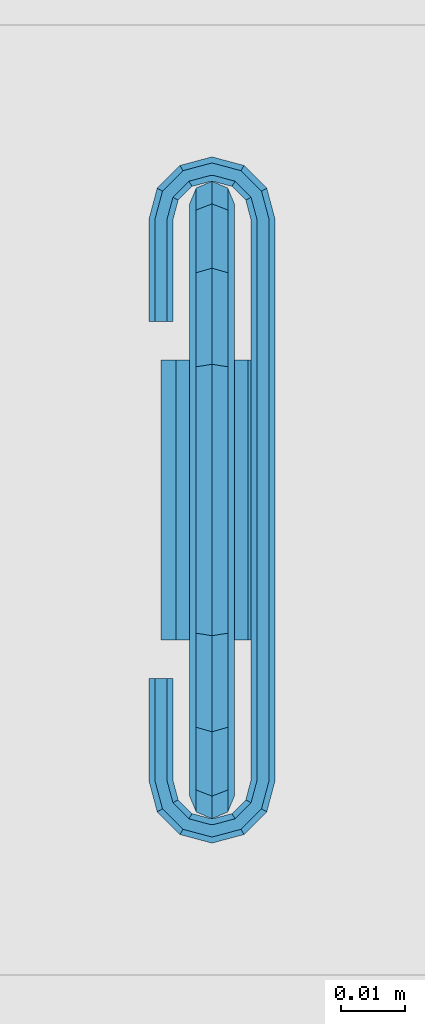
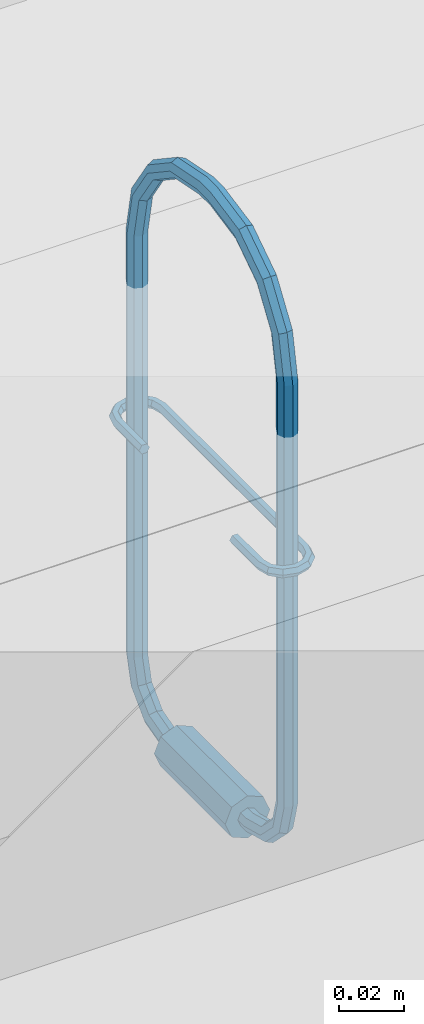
# One storey, part 185 of 230: 1 beam.
"""IFC4X3_ADD2 building model written with IfcOpenShell, lengths in millimetres."""

from ifc_helpers import new_model, si_unit, direction, origin_with_axes, place, context, subcontext, project, spatial, triangles, element, save


model = new_model("IFC4X3_ADD2")

# Units and contexts
model_context = context("Model", 3, precision=1e-05, world=origin_with_axes(), true_north=direction((0.0, 1.0)))
body_context = subcontext(model_context, "Body", "Model", "MODEL_VIEW")
ifc_project = project(units=[si_unit("LENGTHUNIT", "METRE", prefix="MILLI"), si_unit("AREAUNIT", "SQUARE_METRE"), si_unit("VOLUMEUNIT", "CUBIC_METRE"), si_unit("PLANEANGLEUNIT", "RADIAN"), si_unit("TIMEUNIT", "SECOND"), si_unit("MASSUNIT", "GRAM")], contexts=[model_context])

# Site, building, storey
site_placement = place(None, origin_with_axes())
site = spatial("IfcSite", under=ifc_project, at=site_placement, Name="Site", CompositionType="ELEMENT")
building_placement = place(site_placement, origin_with_axes())
building = spatial("IfcBuilding", under=site, at=building_placement, Name="IFC Building Story")
storey_placement = place(building_placement, origin_with_axes())
storey = spatial("IfcBuildingStorey", under=building, at=storey_placement, Name="ETAGE 00 (0)", Elevation=0.0)

# Beam
beam_placement = place(storey_placement, origin_with_axes())
element("IfcBeam", 1, at=beam_placement, inside=storey, Name="LU2", ObjectType="D7", context=body_context, shape_type="Tessellation", body=[
    triangles([(47798.66381835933, -1008.499997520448, 4036.025157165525), (47798.66381835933, -1012.00000190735, 4036.025157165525), (47796.18955078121, -1008.499997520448, 4034.999929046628), (47796.18955078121, -1012.00000190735, 4034.999929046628), (47799.68701171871, -1008.499997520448, 4038.500006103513), (47799.68701171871, -1012.00000190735, 4038.500006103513), (47798.66381835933, -1012.00000190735, 4040.974855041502), (47798.66381835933, -1008.499997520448, 4040.974855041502), (47796.18955078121, -1012.00000190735, 4042.000083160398), (47796.18955078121, -1008.499997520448, 4042.000083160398), (47793.71528320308, -1012.00000190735, 4040.974855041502), (47793.71528320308, -1008.499997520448, 4040.974855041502), (47792.6874389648, -1012.00000190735, 4038.500006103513), (47792.6874389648, -1008.499997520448, 4038.500006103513), (47793.71528320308, -1008.499997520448, 4036.025157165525), (47793.71528320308, -1012.00000190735, 4036.025157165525), (47796.18955078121, -996.2499458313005, 4038.282286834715), (47793.71528320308, -996.7625598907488, 4039.170023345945), (47796.18955078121, -987.282324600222, 4047.250053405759), (47793.71528320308, -988.1701337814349, 4047.762522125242), (47798.66381835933, -988.1701337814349, 4047.762522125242), (47798.66381835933, -996.7625598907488, 4039.170023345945), (47799.68701171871, -990.3134622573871, 4048.999946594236), (47799.68701171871, -997.9999843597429, 4041.313497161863), (47798.66381835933, -999.237408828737, 4043.456680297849), (47798.66381835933, -992.4567180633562, 4050.237371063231), (47796.18955078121, -999.7499502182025, 4044.34441680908), (47796.18955078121, -993.3445272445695, 4050.750130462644), (47793.71528320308, -992.4567180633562, 4050.237371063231), (47793.71528320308, -999.237408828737, 4043.456680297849), (47792.6874389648, -990.3134622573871, 4048.999946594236), (47792.6874389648, -997.9999843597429, 4041.313497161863), (47793.71528320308, -985.025122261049, 4059.499887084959), (47792.6874389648, -987.499971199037, 4059.499887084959), (47796.18955078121, -983.9999668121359, 4059.499887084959), (47798.66381835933, -985.025122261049, 4059.499887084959), (47799.68701171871, -987.499971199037, 4059.499887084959), (47798.66381835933, -989.9748201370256, 4059.499887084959), (47796.18955078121, -990.9999755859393, 4059.499887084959), (47793.71528320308, -989.9748201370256, 4059.499887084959), (47793.71528320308, -989.9748201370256, 4218.50006561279), (47792.6874389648, -987.499971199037, 4218.50006561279), (47793.71528320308, -993.0596609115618, 4234.008421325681), (47792.6874389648, -990.7731725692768, 4234.955456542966), (47793.71528320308, -1001.844371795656, 4247.155583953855), (47792.6874389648, -1000.094405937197, 4248.905477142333), (47793.71528320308, -998.3443674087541, 4250.65566101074), (47793.71528320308, -988.4866842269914, 4235.902491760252), (47796.18955078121, -997.6194843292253, 4251.38032608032), (47796.18955078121, -987.5395763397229, 4236.294909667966), (47798.66381835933, -998.3443674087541, 4250.65566101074), (47798.66381835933, -988.4866842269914, 4235.902491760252), (47799.68701171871, -1000.094405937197, 4248.905477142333), (47799.68701171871, -990.7731725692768, 4234.955456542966), (47798.66381835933, -993.0596609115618, 4234.008421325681), (47798.66381835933, -1001.844371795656, 4247.155583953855), (47796.18955078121, -994.0067687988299, 4233.616003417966), (47796.18955078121, -1002.569254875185, 4246.430628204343), (47796.18955078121, -1015.383952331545, 4254.993186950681), (47793.71528320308, -1014.991679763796, 4255.940222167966), (47792.6874389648, -1014.044571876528, 4258.226710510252), (47793.71528320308, -1013.097536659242, 4260.513198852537), (47796.18955078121, -1012.705191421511, 4261.460524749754), (47798.66381835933, -1013.097536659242, 4260.513198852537), (47799.68701171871, -1014.044571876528, 4258.226710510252), (47798.66381835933, -1014.991679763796, 4255.940222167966), (47798.66381835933, -1030.499962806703, 4259.025208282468), (47796.18955078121, -1030.499962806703, 4257.999980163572), (47793.71528320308, -1030.499962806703, 4259.025208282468), (47792.6874389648, -1030.499962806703, 4261.500057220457), (47793.71528320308, -1030.499962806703, 4263.974906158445), (47796.18955078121, -1030.499962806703, 4265.000134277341), (47798.66381835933, -1030.499962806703, 4263.974906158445), (47799.68701171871, -1030.499962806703, 4261.500057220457), (47799.68701171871, -1037.499971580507, 4261.500057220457), (47798.66381835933, -1037.499971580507, 4259.025208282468), (47799.68701171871, -1053.955362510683, 4258.226710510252), (47798.66381835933, -1053.008254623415, 4255.940222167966), (47799.68701171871, -1067.905601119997, 4248.905477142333), (47798.66381835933, -1066.155562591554, 4247.155583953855), (47796.18955078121, -1052.615982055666, 4254.993186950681), (47796.18955078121, -1065.430679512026, 4246.430628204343), (47793.71528320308, -1066.155562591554, 4247.155583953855), (47793.71528320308, -1053.008254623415, 4255.940222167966), (47792.6874389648, -1067.905601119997, 4248.905477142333), (47792.6874389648, -1053.955362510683, 4258.226710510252), (47793.71528320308, -1069.655566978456, 4250.65566101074), (47793.71528320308, -1054.902470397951, 4260.513198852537), (47796.18955078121, -1070.380450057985, 4251.38032608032), (47796.18955078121, -1055.2947429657, 4261.460524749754), (47798.66381835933, -1069.655566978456, 4250.65566101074), (47798.66381835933, -1054.902470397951, 4260.513198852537), (47799.68701171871, -1077.226834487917, 4234.955456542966), (47798.66381835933, -1079.513322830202, 4235.902491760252), (47798.66381835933, -1074.940346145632, 4234.008421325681), (47796.18955078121, -1073.993238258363, 4233.616003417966), (47793.71528320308, -1074.940346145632, 4234.008421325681), (47792.6874389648, -1077.226834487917, 4234.955456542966), (47793.71528320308, -1079.513322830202, 4235.902491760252), (47796.18955078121, -1080.460358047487, 4236.294909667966), (47798.66381835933, -1082.974884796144, 4218.50006561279), (47796.18955078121, -1083.999967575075, 4218.50006561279), (47799.68701171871, -1080.499963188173, 4218.50006561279), (47798.66381835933, -1078.025114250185, 4218.50006561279), (47796.18955078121, -1076.999958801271, 4218.50006561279), (47793.71528320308, -1078.025114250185, 4218.50006561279), (47792.6874389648, -1080.499963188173, 4218.50006561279), (47793.71528320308, -1082.974884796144, 4218.50006561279), (47796.18955078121, -1083.999967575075, 4059.499887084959), (47793.71528320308, -1082.974884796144, 4059.499887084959), (47796.18955078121, -1080.717609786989, 4047.250053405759), (47793.71528320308, -1079.829800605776, 4047.762522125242), (47796.18955078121, -1071.74998855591, 4038.282286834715), (47793.71528320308, -1071.237447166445, 4039.170023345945), (47798.66381835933, -1071.237447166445, 4039.170023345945), (47798.66381835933, -1079.829800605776, 4047.762522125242), (47799.68701171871, -1069.999950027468, 4041.313497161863), (47799.68701171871, -1077.686544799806, 4048.999946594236), (47798.66381835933, -1075.543216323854, 4050.237371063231), (47798.66381835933, -1068.762525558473, 4043.456680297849), (47796.18955078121, -1074.655407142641, 4050.750130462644), (47796.18955078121, -1068.249984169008, 4044.34441680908), (47793.71528320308, -1068.762525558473, 4043.456680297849), (47793.71528320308, -1075.543216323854, 4050.237371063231), (47792.6874389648, -1069.999950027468, 4041.313497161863), (47792.6874389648, -1077.686544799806, 4048.999946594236), (47793.71528320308, -1059.500009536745, 4036.025157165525), (47792.6874389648, -1059.500009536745, 4038.500006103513), (47796.18955078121, -1059.500009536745, 4034.999929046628), (47798.66381835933, -1059.500009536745, 4036.025157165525), (47799.68701171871, -1059.500009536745, 4038.500006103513), (47798.66381835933, -1059.500009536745, 4040.974855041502), (47796.18955078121, -1059.500009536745, 4042.000083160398), (47793.71528320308, -1059.500009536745, 4040.974855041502), (47793.71528320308, -1056.000005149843, 4040.974855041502), (47792.6874389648, -1056.000005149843, 4038.500006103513), (47796.18955078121, -1056.000005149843, 4042.000083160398), (47798.66381835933, -1056.000005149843, 4040.974855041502), (47799.68701171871, -1056.000005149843, 4038.500006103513), (47798.66381835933, -1056.000005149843, 4036.025157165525), (47796.18955078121, -1056.000005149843, 4034.999929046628), (47793.71528320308, -1056.000005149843, 4036.025157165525), (47804.18906249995, -1056.000005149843, 4038.500006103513), (47796.18955078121, -1056.000005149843, 4046.500099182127), (47790.53408203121, -1056.000005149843, 4044.156928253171), (47788.19003906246, -1056.000005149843, 4038.500006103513), (47801.84501953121, -1056.000005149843, 4044.156928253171), (47790.53408203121, -1056.000005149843, 4032.843083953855), (47796.18955078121, -1056.000005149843, 4030.4999130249), (47801.84501953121, -1056.000005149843, 4032.843083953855), (47801.84501953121, -1012.00000190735, 4032.843083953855), (47796.18955078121, -1012.00000190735, 4030.4999130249), (47804.18906249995, -1012.00000190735, 4038.500006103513), (47801.84501953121, -1012.00000190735, 4044.156928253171), (47796.18955078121, -1012.00000190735, 4046.500099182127), (47790.53408203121, -1012.00000190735, 4044.156928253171), (47788.19003906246, -1012.00000190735, 4038.500006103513), (47790.53408203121, -1012.00000190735, 4032.843083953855), (47792.6874389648, -1080.499963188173, 4059.499887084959), (47793.71528320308, -1078.025114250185, 4059.499887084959), (47796.18955078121, -1076.999958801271, 4059.499887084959), (47798.66381835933, -1078.025114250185, 4059.499887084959), (47799.68701171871, -1080.499963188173, 4059.499887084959), (47798.66381835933, -1082.974884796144, 4059.499887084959), (47798.66381835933, -1037.499971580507, 4263.974906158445), (47796.18955078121, -1037.499971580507, 4265.000134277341), (47793.71528320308, -1037.499971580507, 4263.974906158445), (47792.6874389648, -1037.499971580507, 4261.500057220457), (47793.71528320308, -1037.499971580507, 4259.025208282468), (47796.18955078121, -1037.499971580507, 4257.999980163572), (47796.18955078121, -990.9999755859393, 4218.50006561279), (47798.66381835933, -989.9748201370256, 4218.50006561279), (47799.68701171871, -987.499971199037, 4218.50006561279), (47798.66381835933, -985.025122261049, 4218.50006561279), (47796.18955078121, -983.9999668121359, 4218.50006561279), (47793.71528320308, -985.025122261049, 4218.50006561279), (47790.08759765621, -989.9400112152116, 4149.999886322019), (47790.08759765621, -1006.000004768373, 4149.999886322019), (47789.13881835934, -989.9400112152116, 4148.354637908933), (47789.13881835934, -1006.000004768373, 4148.354637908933), (47790.88289794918, -986.969989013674, 4149.999886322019), (47790.06434326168, -986.4950180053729, 4148.354637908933), (47792.58511962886, -983.973078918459, 4148.354637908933), (47793.0595092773, -984.7957757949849, 4149.999886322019), (47792.58511962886, -983.973078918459, 4151.645425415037), (47790.06434326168, -986.4950180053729, 4151.645425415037), (47796.02677001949, -983.049952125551, 4151.645425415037), (47796.02677001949, -981.1499954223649, 4151.645425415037), (47791.63168945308, -982.3276124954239, 4151.645425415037), (47787.24125976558, -1078.059995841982, 4151.645425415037), (47790.06434326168, -1081.504989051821, 4151.645425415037), (47789.13881835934, -1078.059995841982, 4151.645425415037), (47787.24125976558, -1062.00000228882, 4151.645425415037), (47788.41793212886, -1082.455003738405, 4151.645425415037), (47789.13881835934, -1062.00000228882, 4151.645425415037), (47791.63168945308, -1085.672321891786, 4151.645425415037), (47796.02677001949, -1084.949982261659, 4151.645425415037), (47792.58511962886, -1084.026928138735, 4151.645425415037), (47796.02677001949, -1086.850011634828, 4151.645425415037), (47787.24125976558, -989.9400112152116, 4151.645425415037), (47788.41793212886, -985.545003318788, 4151.645425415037), (47787.24125976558, -1006.000004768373, 4151.645425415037), (47789.13881835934, -989.9400112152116, 4151.645425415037), (47789.13881835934, -1006.000004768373, 4151.645425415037), (47799.79398193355, -1084.026928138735, 4151.645425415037), (47800.74276123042, -1085.672321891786, 4151.645425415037), (47803.96116943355, -1082.455003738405, 4151.645425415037), (47796.34768066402, -1086.850011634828, 4151.645425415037), (47796.34768066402, -1084.949982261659, 4151.645425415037), (47802.31475830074, -1081.504989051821, 4151.645425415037), (47805.13784179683, -1078.059995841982, 4151.645425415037), (47803.24028320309, -1078.059995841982, 4151.645425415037), (47803.24028320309, -989.9400112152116, 4151.645425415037), (47800.74276123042, -982.3276124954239, 4151.645425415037), (47799.79398193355, -983.973078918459, 4151.645425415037), (47803.96116943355, -985.545003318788, 4151.645425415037), (47796.34768066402, -981.1499954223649, 4151.645425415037), (47796.34768066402, -983.049952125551, 4151.645425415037), (47805.13784179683, -989.9400112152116, 4151.645425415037), (47802.31475830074, -986.4950180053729, 4151.645425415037), (47787.24125976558, -1062.00000228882, 4148.354637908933), (47789.13881835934, -1062.00000228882, 4148.354637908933), (47790.08759765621, -1062.00000228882, 4149.999886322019), (47786.2878295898, -1062.00000228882, 4149.999886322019), (47790.08759765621, -1078.059995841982, 4149.999886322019), (47789.13881835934, -1078.059995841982, 4148.354637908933), (47791.63168945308, -1085.672321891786, 4148.354637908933), (47796.02677001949, -1084.949982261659, 4148.354637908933), (47796.02677001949, -1086.850011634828, 4148.354637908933), (47787.24125976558, -989.9400112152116, 4148.354637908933), (47787.24125976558, -1006.000004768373, 4148.354637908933), (47788.41793212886, -985.545003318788, 4148.354637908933), (47791.63168945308, -982.3276124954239, 4148.354637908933), (47796.02677001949, -983.049952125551, 4148.354637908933), (47796.02677001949, -981.1499954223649, 4148.354637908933), (47787.24125976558, -1078.059995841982, 4148.354637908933), (47790.06434326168, -1081.504989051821, 4148.354637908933), (47788.41793212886, -1082.455003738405, 4148.354637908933), (47792.58511962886, -1084.026928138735, 4148.354637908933), (47799.79398193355, -983.973078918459, 4148.354637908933), (47800.74276123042, -982.3276124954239, 4148.354637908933), (47803.96116943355, -985.545003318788, 4148.354637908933), (47796.34768066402, -981.1499954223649, 4148.354637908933), (47796.34768066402, -983.049952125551, 4148.354637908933), (47802.31475830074, -986.4950180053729, 4148.354637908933), (47805.13784179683, -989.9400112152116, 4148.354637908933), (47803.24028320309, -989.9400112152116, 4148.354637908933), (47803.24028320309, -1078.059995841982, 4148.354637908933), (47800.74276123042, -1085.672321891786, 4148.354637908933), (47799.79398193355, -1084.026928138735, 4148.354637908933), (47803.96116943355, -1082.455003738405, 4148.354637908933), (47796.34768066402, -1086.850011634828, 4148.354637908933), (47796.34768066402, -1084.949982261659, 4148.354637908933), (47805.13784179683, -1078.059995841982, 4148.354637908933), (47802.31475830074, -1081.504989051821, 4148.354637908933), (47786.2878295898, -1078.059995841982, 4149.999886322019), (47787.59472656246, -1082.929974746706, 4149.999886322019), (47791.15729980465, -1086.495091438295, 4149.999886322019), (47796.02677001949, -1087.79995365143, 4149.999886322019), (47796.34768066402, -1087.79995365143, 4149.999886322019), (47801.21715087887, -1086.495091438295, 4149.999886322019), (47804.78437499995, -1082.929974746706, 4149.999886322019), (47806.09127197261, -1078.059995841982, 4149.999886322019), (47806.09127197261, -989.9400112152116, 4149.999886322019), (47804.78437499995, -985.0699596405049, 4149.999886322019), (47801.21715087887, -981.5049156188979, 4149.999886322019), (47796.34768066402, -980.199980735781, 4149.999886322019), (47796.02677001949, -980.199980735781, 4149.999886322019), (47791.15729980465, -981.5049156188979, 4149.999886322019), (47787.59472656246, -985.0699596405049, 4149.999886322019), (47786.2878295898, -989.9400112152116, 4149.999886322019), (47786.2878295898, -1006.000004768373, 4149.999886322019), (47796.02677001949, -983.9999668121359, 4149.999886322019), (47796.34768066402, -983.9999668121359, 4149.999886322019), (47799.31959228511, -984.7957757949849, 4149.999886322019), (47801.49155273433, -986.969989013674, 4149.999886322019), (47802.2868530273, -989.9400112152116, 4149.999886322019), (47802.2868530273, -1078.059995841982, 4149.999886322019), (47801.49155273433, -1081.03001804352, 4149.999886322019), (47799.31959228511, -1083.204158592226, 4149.999886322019), (47796.34768066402, -1083.999967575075, 4149.999886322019), (47796.02677001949, -1083.999967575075, 4149.999886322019), (47793.0595092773, -1083.204158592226, 4149.999886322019), (47790.88289794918, -1081.03001804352, 4149.999886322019)], [[1, 2, 3], [4, 3, 2], [5, 6, 1], [2, 1, 6], [6, 5, 7], [8, 7, 5], [7, 8, 9], [10, 9, 8], [9, 10, 11], [12, 11, 10], [11, 12, 13], [14, 13, 12], [15, 16, 14], [13, 14, 16], [3, 4, 15], [16, 15, 4], [17, 3, 18], [15, 18, 3], [19, 17, 20], [18, 20, 17], [21, 22, 17], [17, 19, 21], [23, 24, 22], [22, 21, 23], [24, 23, 25], [26, 25, 23], [25, 26, 27], [28, 27, 26], [27, 28, 29], [29, 30, 27], [30, 29, 31], [31, 32, 30], [20, 18, 31], [32, 31, 18], [33, 20, 34], [31, 34, 20], [35, 19, 33], [20, 33, 19], [36, 21, 19], [19, 35, 36], [37, 23, 21], [21, 36, 37], [23, 37, 26], [38, 26, 37], [26, 38, 28], [39, 28, 38], [28, 39, 40], [40, 29, 28], [29, 40, 34], [34, 31, 29], [40, 41, 42], [42, 34, 40], [41, 43, 44], [44, 42, 41], [43, 45, 46], [46, 44, 43], [47, 48, 46], [44, 46, 48], [49, 50, 47], [48, 47, 50], [51, 52, 50], [50, 49, 51], [53, 54, 52], [52, 51, 53], [54, 53, 55], [56, 55, 53], [55, 56, 57], [58, 57, 56], [57, 58, 45], [45, 43, 57], [58, 59, 60], [60, 45, 58], [45, 60, 61], [61, 46, 45], [62, 47, 61], [46, 61, 47], [63, 49, 62], [47, 62, 49], [64, 51, 49], [49, 63, 64], [65, 53, 51], [51, 64, 65], [53, 65, 56], [66, 56, 65], [56, 66, 58], [59, 58, 66], [66, 67, 59], [68, 59, 67], [59, 68, 69], [69, 60, 59], [60, 69, 70], [70, 61, 60], [71, 62, 70], [61, 70, 62], [72, 63, 71], [62, 71, 63], [73, 64, 63], [63, 72, 73], [74, 65, 64], [64, 73, 74], [65, 74, 66], [67, 66, 74], [74, 75, 67], [76, 67, 75], [75, 77, 76], [78, 76, 77], [77, 79, 78], [80, 78, 79], [78, 80, 81], [82, 81, 80], [81, 82, 83], [83, 84, 81], [84, 83, 85], [85, 86, 84], [87, 88, 85], [86, 85, 88], [89, 90, 87], [88, 87, 90], [91, 92, 90], [90, 89, 91], [79, 77, 92], [92, 91, 79], [93, 79, 91], [91, 94, 93], [79, 93, 80], [95, 80, 93], [80, 95, 82], [96, 82, 95], [82, 96, 97], [97, 83, 82], [83, 97, 98], [98, 85, 83], [99, 87, 98], [85, 98, 87], [100, 89, 99], [87, 99, 89], [94, 91, 89], [89, 100, 94], [101, 94, 100], [100, 102, 101], [103, 93, 94], [94, 101, 103], [93, 103, 95], [104, 95, 103], [95, 104, 96], [105, 96, 104], [96, 105, 106], [106, 97, 96], [97, 106, 107], [107, 98, 97], [108, 99, 107], [98, 107, 99], [102, 100, 108], [99, 108, 100], [109, 102, 110], [108, 110, 102], [111, 109, 112], [110, 112, 109], [113, 111, 114], [112, 114, 111], [115, 116, 111], [111, 113, 115], [117, 118, 116], [116, 115, 117], [118, 117, 119], [120, 119, 117], [119, 120, 121], [122, 121, 120], [121, 122, 123], [123, 124, 121], [124, 123, 125], [125, 126, 124], [114, 112, 125], [126, 125, 112], [127, 114, 128], [125, 128, 114], [129, 113, 127], [114, 127, 113], [130, 115, 113], [113, 129, 130], [131, 117, 115], [115, 130, 131], [117, 131, 120], [132, 120, 131], [120, 132, 122], [133, 122, 132], [122, 133, 134], [134, 123, 122], [123, 134, 128], [128, 125, 123], [134, 135, 136], [136, 128, 134], [133, 137, 134], [135, 134, 137], [132, 138, 137], [137, 133, 132], [131, 139, 132], [138, 132, 139], [139, 131, 130], [130, 140, 139], [140, 130, 141], [129, 141, 130], [141, 129, 127], [127, 142, 141], [142, 127, 136], [128, 136, 127], [138, 139, 143], [135, 137, 144], [144, 145, 135], [146, 136, 135], [146, 135, 145], [147, 137, 138], [137, 147, 144], [138, 143, 147], [148, 136, 146], [142, 149, 141], [142, 136, 148], [148, 149, 142], [150, 143, 139], [139, 140, 150], [141, 150, 140], [150, 141, 149], [151, 150, 152], [149, 152, 150], [153, 143, 151], [150, 151, 143], [143, 153, 147], [154, 147, 153], [147, 154, 144], [155, 144, 154], [144, 155, 145], [156, 145, 155], [145, 156, 146], [157, 146, 156], [158, 148, 157], [146, 157, 148], [152, 149, 158], [148, 158, 149], [11, 13, 157], [7, 9, 155], [155, 154, 7], [153, 6, 7], [153, 7, 154], [156, 9, 11], [9, 156, 155], [11, 157, 156], [151, 6, 153], [2, 152, 4], [2, 6, 151], [151, 152, 2], [158, 157, 13], [13, 16, 158], [4, 158, 16], [158, 4, 152], [112, 110, 126], [159, 126, 110], [160, 124, 126], [126, 159, 160], [161, 121, 124], [124, 160, 161], [162, 119, 161], [121, 161, 119], [163, 118, 162], [119, 162, 118], [118, 163, 164], [164, 116, 118], [116, 164, 109], [109, 111, 116], [164, 101, 102], [102, 109, 164], [163, 103, 164], [101, 164, 103], [103, 163, 104], [162, 104, 163], [104, 162, 105], [161, 105, 162], [105, 161, 160], [160, 106, 105], [106, 160, 159], [159, 107, 106], [110, 108, 107], [107, 159, 110], [77, 75, 165], [165, 92, 77], [92, 165, 166], [166, 90, 92], [90, 166, 88], [167, 88, 166], [88, 167, 86], [168, 86, 167], [169, 84, 86], [86, 168, 169], [170, 81, 84], [84, 169, 170], [76, 78, 170], [81, 170, 78], [67, 76, 68], [170, 68, 76], [68, 170, 169], [169, 69, 68], [69, 169, 168], [168, 70, 69], [167, 71, 70], [70, 168, 167], [166, 72, 71], [71, 167, 166], [165, 73, 166], [72, 166, 73], [75, 74, 165], [73, 165, 74], [171, 57, 43], [43, 41, 171], [172, 55, 171], [57, 171, 55], [173, 54, 172], [55, 172, 54], [54, 173, 174], [174, 52, 54], [52, 174, 175], [175, 50, 52], [50, 175, 48], [176, 48, 175], [48, 176, 44], [42, 44, 176], [176, 33, 34], [34, 42, 176], [175, 35, 176], [33, 176, 35], [174, 36, 35], [35, 175, 174], [173, 37, 174], [36, 174, 37], [37, 173, 38], [172, 38, 173], [38, 172, 39], [171, 39, 172], [39, 171, 41], [41, 40, 39], [18, 15, 32], [14, 32, 15], [12, 30, 32], [32, 14, 12], [10, 27, 30], [30, 12, 10], [8, 25, 10], [27, 10, 25], [5, 24, 8], [25, 8, 24], [24, 5, 1], [1, 22, 24], [22, 1, 3], [3, 17, 22], [177, 178, 179], [180, 179, 178], [181, 177, 179], [179, 182, 181], [183, 184, 181], [181, 182, 183], [184, 185, 181], [186, 181, 185], [187, 188, 189], [190, 191, 192], [190, 192, 193], [190, 194, 191], [195, 193, 192], [196, 197, 198], [198, 191, 194], [199, 197, 196], [196, 198, 194], [200, 186, 201], [202, 203, 200], [204, 203, 202], [200, 203, 186], [185, 189, 201], [201, 186, 185], [189, 185, 187], [205, 206, 207], [197, 199, 208], [208, 209, 197], [209, 206, 205], [206, 209, 208], [210, 207, 211], [207, 210, 205], [212, 211, 213], [211, 212, 210], [214, 215, 216], [217, 188, 187], [187, 218, 217], [218, 215, 214], [214, 217, 218], [213, 219, 220], [219, 213, 211], [220, 216, 215], [216, 220, 219], [195, 221, 193], [222, 195, 223], [193, 221, 224], [195, 222, 221], [223, 225, 226], [226, 222, 223], [227, 228, 229], [230, 182, 179], [230, 179, 231], [230, 232, 182], [180, 231, 179], [233, 234, 183], [183, 182, 232], [235, 234, 233], [233, 183, 232], [236, 237, 238], [221, 226, 236], [222, 226, 221], [236, 226, 237], [239, 227, 238], [238, 237, 239], [227, 239, 228], [240, 241, 242], [243, 234, 235], [243, 244, 234], [244, 243, 241], [240, 244, 241], [245, 242, 246], [242, 245, 240], [247, 246, 248], [246, 247, 245], [249, 250, 251], [252, 229, 228], [228, 253, 252], [253, 250, 249], [249, 252, 253], [248, 254, 255], [254, 248, 246], [255, 251, 250], [251, 255, 254], [221, 236, 256], [256, 224, 221], [190, 193, 256], [224, 256, 193], [257, 194, 256], [190, 256, 194], [238, 257, 256], [256, 236, 238], [227, 258, 238], [257, 238, 258], [258, 196, 194], [194, 257, 258], [259, 199, 196], [196, 258, 259], [260, 208, 259], [199, 259, 208], [261, 206, 260], [208, 260, 206], [249, 261, 260], [260, 252, 249], [252, 260, 259], [259, 229, 252], [229, 259, 227], [258, 227, 259], [251, 262, 261], [261, 249, 251], [262, 207, 261], [206, 261, 207], [263, 211, 207], [207, 262, 263], [263, 264, 211], [219, 211, 264], [219, 264, 216], [265, 216, 264], [264, 246, 242], [242, 265, 264], [264, 263, 254], [254, 246, 264], [254, 263, 251], [262, 251, 263], [265, 242, 266], [241, 266, 242], [216, 265, 266], [266, 214, 216], [214, 266, 267], [267, 217, 214], [217, 267, 268], [268, 188, 217], [188, 268, 189], [269, 189, 268], [268, 235, 233], [233, 269, 268], [267, 243, 268], [235, 268, 243], [266, 241, 267], [243, 267, 241], [269, 233, 232], [232, 270, 269], [189, 269, 201], [270, 201, 269], [201, 270, 271], [271, 200, 201], [202, 200, 272], [271, 272, 200], [202, 180, 204], [231, 202, 272], [204, 180, 178], [202, 231, 180], [230, 231, 271], [272, 271, 231], [270, 232, 271], [230, 271, 232], [178, 177, 203], [203, 204, 178], [177, 181, 203], [186, 203, 181], [234, 273, 184], [184, 183, 234], [273, 187, 184], [185, 184, 187], [274, 218, 273], [187, 273, 218], [275, 215, 218], [218, 274, 275], [276, 220, 215], [215, 275, 276], [213, 220, 276], [276, 277, 213], [212, 213, 277], [277, 278, 212], [210, 212, 279], [278, 279, 212], [210, 279, 205], [280, 205, 279], [205, 280, 209], [281, 209, 280], [209, 281, 197], [282, 197, 281], [197, 282, 283], [283, 198, 197], [198, 283, 284], [284, 191, 198], [284, 225, 192], [192, 191, 284], [225, 223, 192], [195, 192, 223], [225, 284, 226], [237, 226, 284], [283, 239, 284], [237, 284, 239], [282, 228, 283], [239, 283, 228], [281, 253, 228], [228, 282, 281], [280, 250, 253], [253, 281, 280], [279, 255, 250], [250, 280, 279], [248, 255, 279], [279, 278, 248], [247, 248, 277], [278, 277, 248], [245, 247, 276], [277, 276, 247], [245, 276, 240], [275, 240, 276], [240, 275, 244], [274, 244, 275], [244, 274, 273], [273, 234, 244]]),
])

save(model, "model.ifc")
